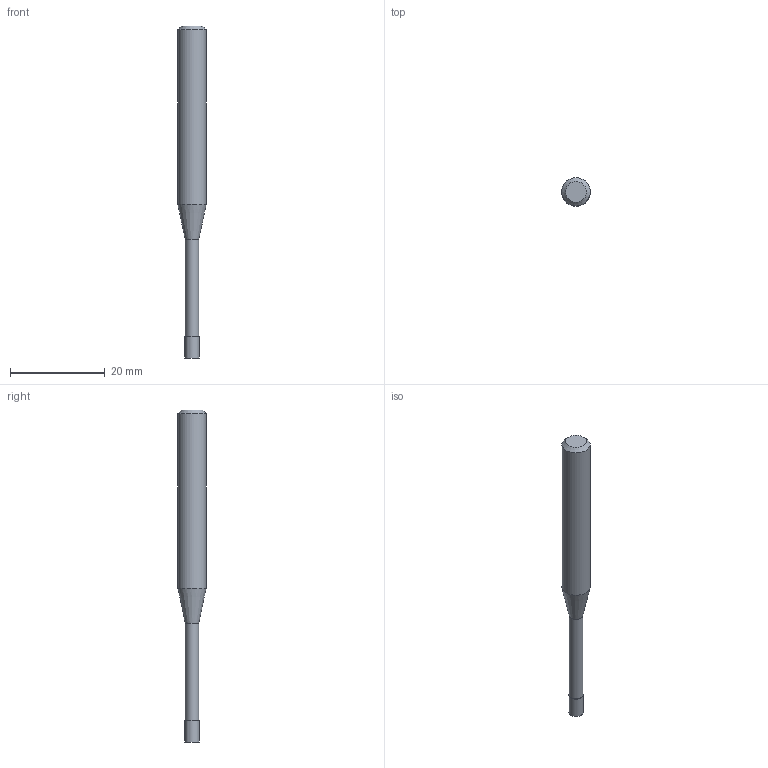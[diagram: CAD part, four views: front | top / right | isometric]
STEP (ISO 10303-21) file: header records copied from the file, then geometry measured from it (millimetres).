
FILE_DESCRIPTION((''),'2;1');
FILE_NAME('C:\Users\nsx150\AppData\Local\Temp\Mastercam 2021\3SYKECWX22\TEMP.step','2021-04-22T09:39:39',(''),(''),'STEP Write','Mastercam 2021 ... CNC Software, Inc.','');
FILE_SCHEMA(('AUTOMOTIVE_DESIGN'));
Length unit declared in the file: millimetre
Products named in the file (1): None
Bounding box: 6 x 6 x 70 mm (x, y, z)
Volume: 1338.7 mm3; surface area: 1079 mm2
Topology: 2 solids, 2 shells, 9 faces, 12 edges, 7 vertices
Faces by surface type: plane 4, cylinder 3, cone 2
Full cylindrical faces by diameter (mm): 2.85 x1, 3 x1, 6 x1
Entity records: 211 total; most frequent: DIRECTION 36, CARTESIAN_POINT 25, AXIS2_PLACEMENT_3D 18, ORIENTED_EDGE 14, EDGE_LOOP 14, STYLED_ITEM 12, ADVANCED_FACE 9, FACE_BOUND 8
